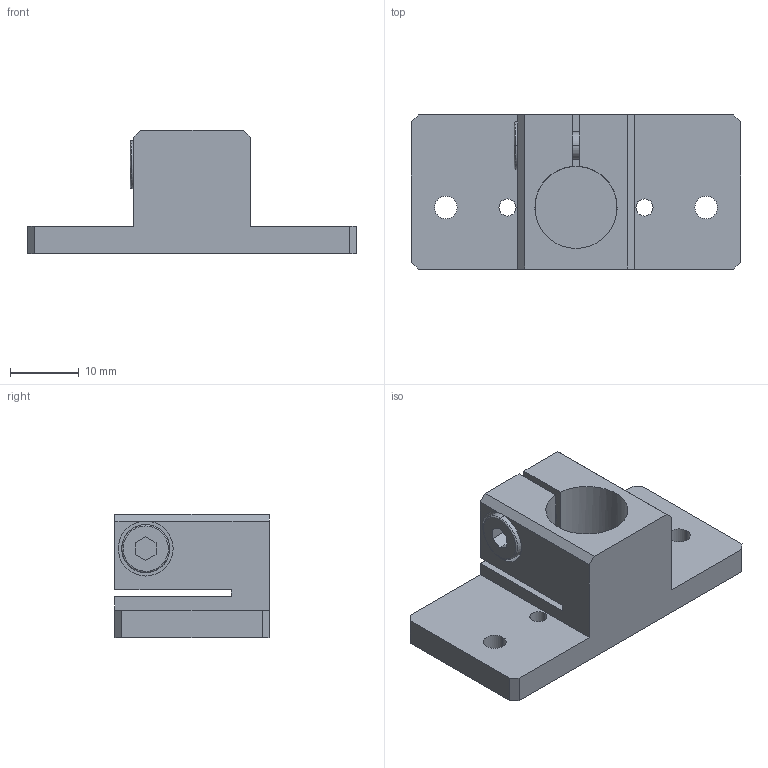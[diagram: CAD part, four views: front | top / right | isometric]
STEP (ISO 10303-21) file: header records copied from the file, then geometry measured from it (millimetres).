
FILE_DESCRIPTION (( 'STEP AP214' ), '1' );
FILE_NAME ('SMBU-12.STEP', '2019-11-06T08:23:59', ( '微软用户' ), ( '微软中国' ), 'SwSTEP 2.0', 'SolidWorks 2016', '' );
FILE_SCHEMA (( 'AUTOMOTIVE_DESIGN' ));
Length unit declared in the file: millimetre
Products named in the file (1): SMBU-12
Bounding box: 48 x 22.5 x 18 mm (x, y, z)
Volume: 7551 mm3; surface area: 5447.6 mm2
Topology: 3 solids, 3 shells, 257 faces, 741 edges, 490 vertices
Faces by surface type: plane 229, cylinder 24, cone 2, bspline 2
Entity records: 11491 total; most frequent: CARTESIAN_POINT 1613, DIRECTION 1489, ORIENTED_EDGE 1482, EDGE_CURVE 741, VECTOR 497, LINE 497, AXIS2_PLACEMENT_3D 496, VERTEX_POINT 490
